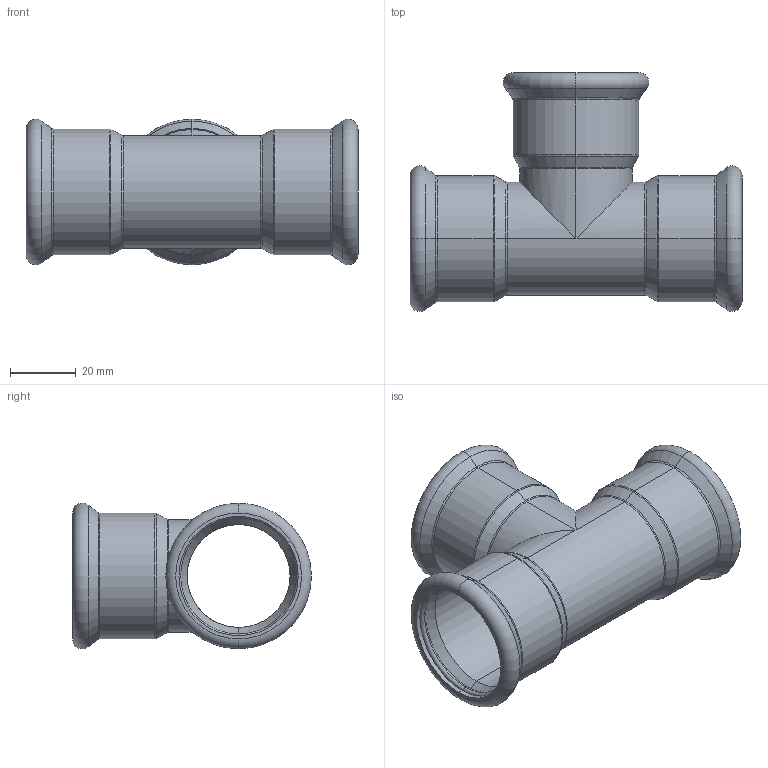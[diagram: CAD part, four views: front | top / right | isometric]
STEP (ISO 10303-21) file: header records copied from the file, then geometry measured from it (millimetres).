
FILE_DESCRIPTION (( 'STEP AP214' ), '1' );
FILE_NAME ('T350000.STEP', '2025-08-17T12:52:59', ( '' ), ( '' ), 'SwSTEP 2.0', 'SolidWorks 2020', '' );
FILE_SCHEMA (( 'AUTOMOTIVE_DESIGN' ));
Length unit declared in the file: millimetre
Products named in the file (1): T350000
Bounding box: 101 x 72.65 x 44.3 mm (x, y, z)
Volume: 24850.7 mm3; surface area: 34433.4 mm2
Topology: 4 solids, 4 shells, 100 faces, 202 edges, 106 vertices
Faces by surface type: torus 42, cylinder 28, cone 24, plane 6
Entity records: 3763 total; most frequent: DIRECTION 544, CARTESIAN_POINT 421, ORIENTED_EDGE 404, AXIS2_PLACEMENT_3D 245, EDGE_CURVE 202, CIRCLE 144, UNCERTAINTY_MEASURE_WITH_UNIT 106, VERTEX_POINT 106
